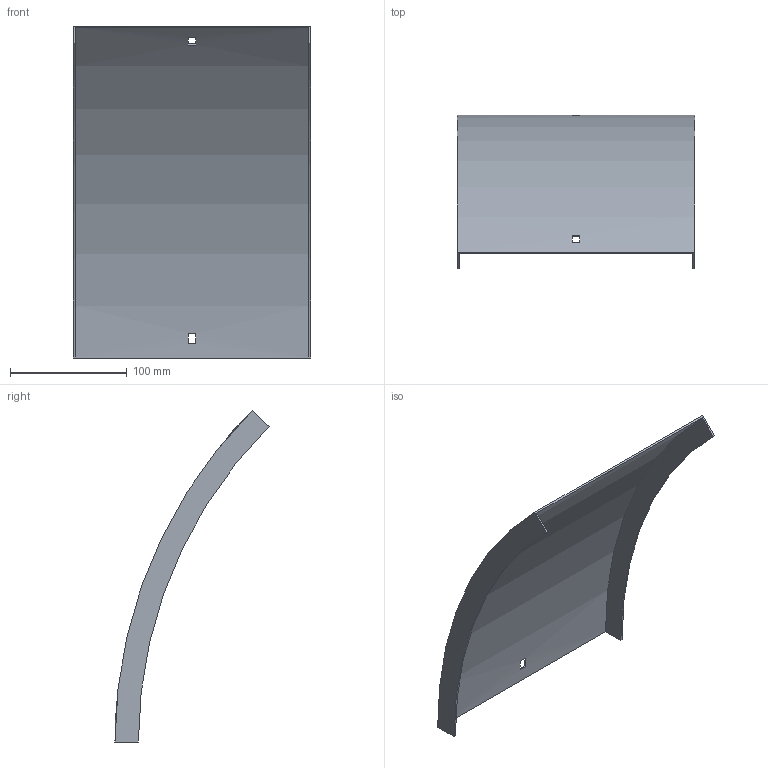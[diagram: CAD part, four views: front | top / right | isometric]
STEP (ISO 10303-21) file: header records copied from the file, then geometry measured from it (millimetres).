
FILE_DESCRIPTION (( 'STEP AP214' ), '1' );
FILE_NAME ('B2_34N3D200.step', '2025-02-21T10:36:23', ( '' ), ( '' ), 'SwSTEP 2.0', 'SolidWorks 2023', '' );
FILE_SCHEMA (( 'AUTOMOTIVE_DESIGN' ));
Length unit declared in the file: millimetre
Products named in the file (1): B2_34N3D200
Bounding box: 203 x 131.74 x 283.9 mm (x, y, z)
Volume: 112697.8 mm3; surface area: 151977.5 mm2
Topology: 1 solids, 1 shells, 18 faces, 48 edges, 32 vertices
Faces by surface type: plane 14, cylinder 4
Entity records: 599 total; most frequent: DIRECTION 102, CARTESIAN_POINT 99, ORIENTED_EDGE 96, EDGE_CURVE 48, AXIS2_PLACEMENT_3D 35, LINE 32, VERTEX_POINT 32, VECTOR 32
